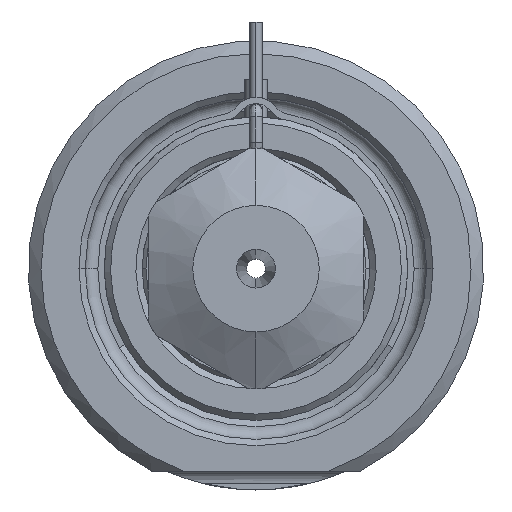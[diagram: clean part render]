
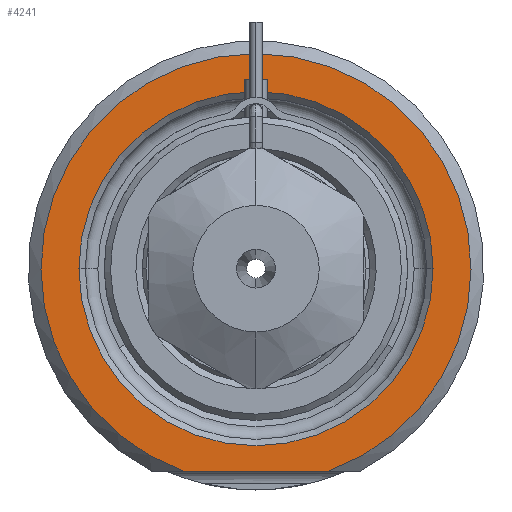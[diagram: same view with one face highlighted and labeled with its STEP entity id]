
A CAD part, front view. The second image highlights one B-rep face of the part: STEP entity #4241.
In plain terms, the highlighted planar face has unit normal (0, -1, 0).
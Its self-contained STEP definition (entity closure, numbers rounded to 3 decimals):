
#1325=CARTESIAN_POINT('',(0.,0.,0.));
#1326=DIRECTION('',(0.,-1.,0.));
#1327=DIRECTION('',(0.338,0.,-0.941));
#1328=AXIS2_PLACEMENT_3D('',#1325,#1326,#1327);
#1349=DIRECTION('',(1.,0.,0.));
#1350=VECTOR('',#1349,11.489);
#1351=CARTESIAN_POINT('',(-5.745,0.,-16.));
#1352=LINE('',#1351,#1350);
#1353=CARTESIAN_POINT('',(0.,0.,0.));
#1354=DIRECTION('',(0.,1.,0.));
#1355=DIRECTION('',(-1.,0.,0.));
#1356=AXIS2_PLACEMENT_3D('',#1353,#1354,#1355);
#1358=CARTESIAN_POINT('',(0.,0.,0.));
#1359=DIRECTION('',(0.,1.,0.));
#1360=DIRECTION('',(1.,0.,0.));
#1361=AXIS2_PLACEMENT_3D('',#1358,#1359,#1360);
#2243=CARTESIAN_POINT('',(-14.,0.,0.));
#2244=CARTESIAN_POINT('',(14.,0.,0.));
#2245=VERTEX_POINT('',#2243);
#2246=VERTEX_POINT('',#2244);
#2283=CARTESIAN_POINT('',(-5.745,0.,-16.));
#2284=CARTESIAN_POINT('',(5.745,0.,-16.));
#2285=VERTEX_POINT('',#2283);
#2286=VERTEX_POINT('',#2284);
#4226=CARTESIAN_POINT('',(0.,0.,0.));
#4227=DIRECTION('',(0.,-1.,0.));
#4228=DIRECTION('',(1.,0.,0.));
#4229=AXIS2_PLACEMENT_3D('',#4226,#4227,#4228);
#4230=PLANE('',#4229);
#4231=ORIENTED_EDGE('',*,*,#4158,.F.);
#4232=ORIENTED_EDGE('',*,*,#4218,.F.);
#4233=EDGE_LOOP('',(#4231,#4232));
#4234=FACE_OUTER_BOUND('',#4233,.F.);
#4236=ORIENTED_EDGE('',*,*,#4235,.F.);
#4238=ORIENTED_EDGE('',*,*,#4237,.F.);
#4239=EDGE_LOOP('',(#4236,#4238));
#4240=FACE_BOUND('',#4239,.F.);
#4241=ADVANCED_FACE('',(#4234,#4240),#4230,.T.);
#1329=CIRCLE('',#1328,17.);
#1357=CIRCLE('',#1356,14.);
#1362=CIRCLE('',#1361,14.);
#4158=EDGE_CURVE('',#2285,#2286,#1352,.T.);
#4218=EDGE_CURVE('',#2286,#2285,#1329,.T.);
#4235=EDGE_CURVE('',#2245,#2246,#1357,.T.);
#4237=EDGE_CURVE('',#2246,#2245,#1362,.T.);
